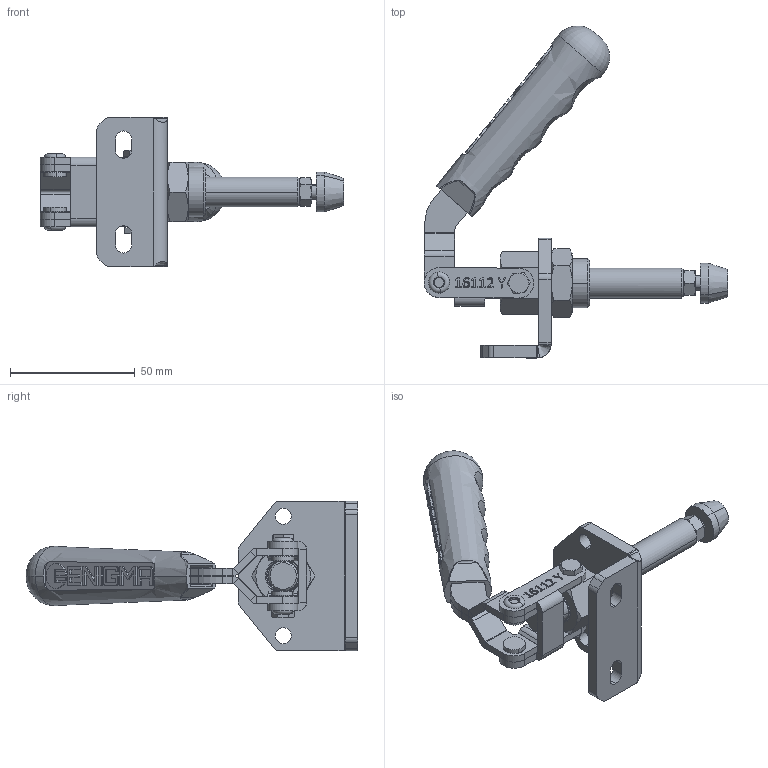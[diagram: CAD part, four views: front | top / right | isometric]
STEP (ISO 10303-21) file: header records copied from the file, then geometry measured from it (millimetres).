
FILE_DESCRIPTION (( 'STEP AP203' ), '1' );
FILE_NAME ('16112_Y.STEP', '2022-11-28T08:28:37', ( '' ), ( '' ), 'SwSTEP 2.0', 'SolidWorks 2023', '' );
FILE_SCHEMA (( 'CONFIG_CONTROL_DESIGN' ));
Length unit declared in the file: millimetre
Products named in the file (15): 1604_Hareket Kolu_Varsayılan; 1603_Kademeli Pim Uzun_Varsayılan; 1604_TozKeçeliAltıgenGovde_Varsayılan; KASTAS-K52-12X16_5X3_6-4_8_Varsayılan; M6 Baskı_Varsayılan; M20x1_5x8 Somun_Varsayılan; 1604_S5_Flans_Varsayılan; M6 Somun_Varsayılan; 16112_Y; 1603_Mil_Varsayılan; M5x6x10_Varsayılan; C90_T(YENİ_TUTAMAK)_Varsayılan; 1604_Mafsal_Varsayılan; Aynalama1604_Hareket Kolu_Varsayılan; 1604_Pim_6x10_Varsayılan
Assembly tree (17 placements, depth 2):
  16112_Y
    1604_TozKeçeliAltıgenGovde_Varsayılan
    KASTAS-K52-12X16_5X3_6-4_8_Varsayılan  x2
    1603_Mil_Varsayılan
    1604_Hareket Kolu_Varsayılan
    1604_Mafsal_Varsayılan
    1604_S5_Flans_Varsayılan
    M20x1_5x8 Somun_Varsayılan
    M6 Baskı_Varsayılan
    M6 Somun_Varsayılan
    M5x6x10_Varsayılan  x2
    1604_Pim_6x10_Varsayılan  x2
    Aynalama1604_Hareket Kolu_Varsayılan
    1603_Kademeli Pim Uzun_Varsayılan
    C90_T(YENİ_TUTAMAK)_Varsayılan
Bounding box: 121.96 x 133.23 x 60 mm (x, y, z)
Volume: 77257.5 mm3; surface area: 48142.6 mm2
Topology: 17 solids, 17 shells, 912 faces, 2253 edges, 1418 vertices
Faces by surface type: plane 442, cylinder 196, bspline 134, cone 112, torus 24, sphere 4
Entity records: 35053 total; most frequent: CARTESIAN_POINT 14943, ORIENTED_EDGE 3998, DIRECTION 3486, EDGE_CURVE 1999, VERTEX_POINT 1265, LINE 1178, VECTOR 1178, AXIS2_PLACEMENT_3D 1154
